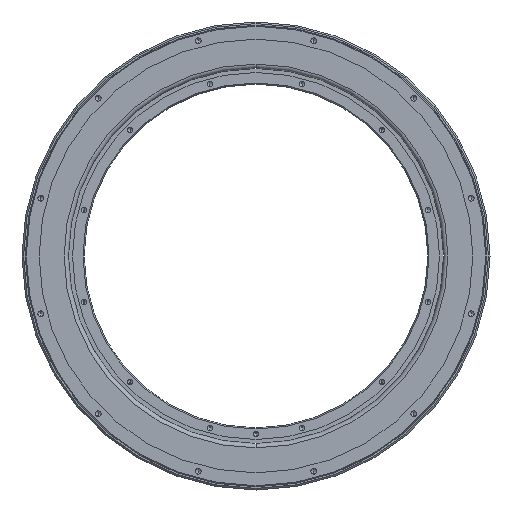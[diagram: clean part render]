
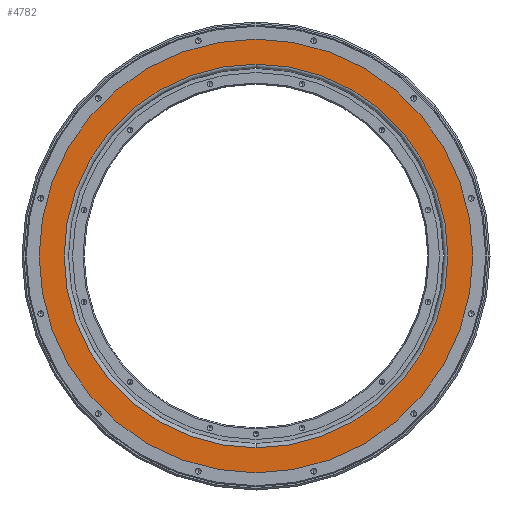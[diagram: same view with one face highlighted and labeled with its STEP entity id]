
A CAD part, front view. The second image highlights one B-rep face of the part: STEP entity #4782.
In plain terms, the highlighted planar face has unit normal (0, -1, 0).
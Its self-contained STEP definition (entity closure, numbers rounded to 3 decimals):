
#223 = FACE_BOUND ( 'NONE', #6241, .T. ) ;
#270 = EDGE_CURVE ( 'NONE', #4966, #1246, #4483, .T. ) ;
#480 = CIRCLE ( 'NONE', #665, 234.5 ) ;
#665 = AXIS2_PLACEMENT_3D ( 'NONE', #1778, #7579, #8400 ) ;
#930 = EDGE_CURVE ( 'NONE', #5025, #4595, #5514, .T. ) ;
#1144 = PLANE ( 'NONE',  #9108 ) ;
#1154 = AXIS2_PLACEMENT_3D ( 'NONE', #8424, #7749, #6989 ) ;
#1246 = VERTEX_POINT ( 'NONE', #5281 ) ;
#1281 = EDGE_LOOP ( 'NONE', ( #1834, #2923 ) ) ;
#1345 = FACE_OUTER_BOUND ( 'NONE', #1281, .T. ) ;
#1674 = CARTESIAN_POINT ( 'NONE',  ( 0., 3., 0. ) ) ;
#1778 = CARTESIAN_POINT ( 'NONE',  ( 0., 3., 0. ) ) ;
#1834 = ORIENTED_EDGE ( 'NONE', *, *, #5268, .T. ) ;
#2453 = CARTESIAN_POINT ( 'NONE',  ( -265., 3., 0. ) ) ;
#2802 = ORIENTED_EDGE ( 'NONE', *, *, #930, .T. ) ;
#2923 = ORIENTED_EDGE ( 'NONE', *, *, #270, .T. ) ;
#3586 = CARTESIAN_POINT ( 'NONE',  ( 0., 3., 265. ) ) ;
#3721 = CARTESIAN_POINT ( 'NONE',  ( 0., 3., -234.5 ) ) ;
#4375 = CARTESIAN_POINT ( 'NONE',  ( 0., 3., 0. ) ) ;
#4436 = DIRECTION ( 'NONE',  ( 0., 0., -1. ) ) ;
#4483 = CIRCLE ( 'NONE', #5116, 265. ) ;
#4595 = VERTEX_POINT ( 'NONE', #3721 ) ;
#4710 = DIRECTION ( 'NONE',  ( 0., 0., 1. ) ) ;
#4782 = ADVANCED_FACE ( 'NONE', ( #223, #1345 ), #1144, .F. ) ;
#4966 = VERTEX_POINT ( 'NONE', #3586 ) ;
#5025 = VERTEX_POINT ( 'NONE', #6522 ) ;
#5116 = AXIS2_PLACEMENT_3D ( 'NONE', #4375, #8757, #4436 ) ;
#5268 = EDGE_CURVE ( 'NONE', #1246, #4966, #7954, .T. ) ;
#5281 = CARTESIAN_POINT ( 'NONE',  ( 0., 3., -265. ) ) ;
#5514 = CIRCLE ( 'NONE', #1154, 234.5 ) ;
#6241 = EDGE_LOOP ( 'NONE', ( #2802, #7171 ) ) ;
#6522 = CARTESIAN_POINT ( 'NONE',  ( 0., 3., 234.5 ) ) ;
#6776 = DIRECTION ( 'NONE',  ( 0., -1., 0. ) ) ;
#6989 = DIRECTION ( 'NONE',  ( 0., 0., 1. ) ) ;
#7171 = ORIENTED_EDGE ( 'NONE', *, *, #8764, .T. ) ;
#7553 = DIRECTION ( 'NONE',  ( 0., 1., 0. ) ) ;
#7579 = DIRECTION ( 'NONE',  ( 0., 1., 0. ) ) ;
#7657 = AXIS2_PLACEMENT_3D ( 'NONE', #1674, #6776, #7701 ) ;
#7701 = DIRECTION ( 'NONE',  ( 0., 0., -1. ) ) ;
#7749 = DIRECTION ( 'NONE',  ( 0., 1., 0. ) ) ;
#7954 = CIRCLE ( 'NONE', #7657, 265. ) ;
#8400 = DIRECTION ( 'NONE',  ( 0., 0., 1. ) ) ;
#8424 = CARTESIAN_POINT ( 'NONE',  ( 0., 3., 0. ) ) ;
#8757 = DIRECTION ( 'NONE',  ( 0., -1., 0. ) ) ;
#8764 = EDGE_CURVE ( 'NONE', #4595, #5025, #480, .T. ) ;
#9108 = AXIS2_PLACEMENT_3D ( 'NONE', #2453, #7553, #4710 ) ;
